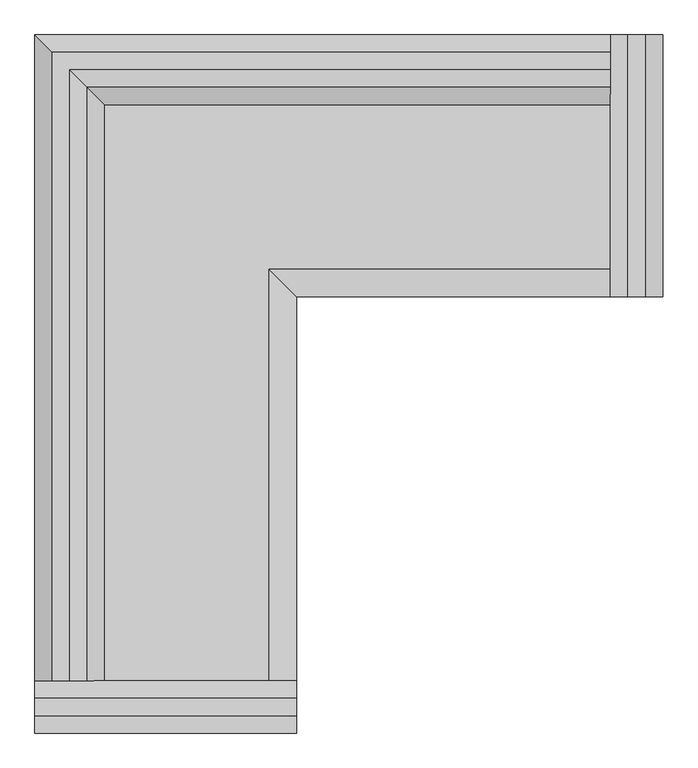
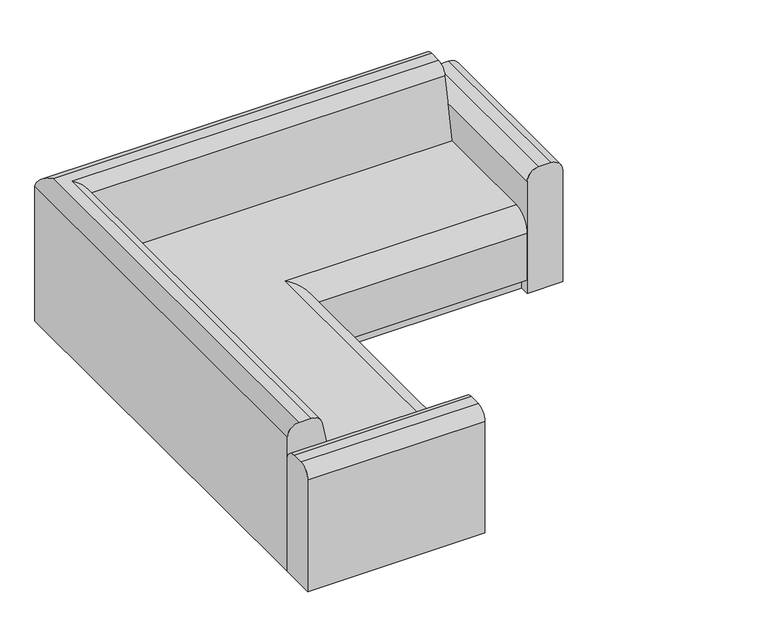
"""IFC4 building model written with IfcOpenShell, lengths in millimetres: furniture geometry, L 型长沙发 : W1800*D1800."""

import ifcopenshell
import ifcopenshell.guid

model = None  # the IFC model being written
_history = None  # IfcOwnerHistory: only IFC2X3 demands one
_inside = {}  # id of a spatial element -> (the spatial element, [elements in it])
_under = {}  # id of a project, library or spatial element -> (it, [spatial elements below it])
_declared = {}  # id of a project -> (the project, [libraries it declares])
_typed = {}  # id of a type object -> (the type object, [elements of that type])
_made_of = {}  # id of a material, layer set ... -> (it, [elements and type objects made of it])


def new_model(schema):
    """Start an empty IFC model of exactly this schema.

    Asked for "IFC4X3", IfcOpenShell would pick the latest addendum, in which some entities
    have other attributes; the version numbers below select the first issue.
    IFC2X3 requires an IfcOwnerHistory on every rooted entity: one is made here for all.
    """
    global model, _history
    if schema == "IFC4X3":
        model = ifcopenshell.file(schema_version=(4, 3, 0, 0))
    else:
        model = ifcopenshell.file(schema=schema)
    _inside.clear()
    _under.clear()
    _declared.clear()
    _typed.clear()
    _made_of.clear()
    _history = None
    if model.schema == "IFC2X3":
        org = make("IfcOrganization", Name="unknown")
        user = make(
            "IfcPersonAndOrganization",
            ThePerson=make("IfcPerson", FamilyName="unknown"),
            TheOrganization=org,
        )
        app = make(
            "IfcApplication",
            ApplicationDeveloper=org,
            Version="unknown",
            ApplicationFullName="unknown",
            ApplicationIdentifier="unknown",
        )
        _history = make(
            "IfcOwnerHistory",
            OwningUser=user,
            OwningApplication=app,
            ChangeAction="ADDED",
            CreationDate=0,
        )
    return model


def make(cls, **values):
    """One entity of the class cls with the attributes given. An attribute that is None is left unset."""
    return model.create_entity(
        cls, **{name: value for name, value in values.items() if value is not None}
    )


def rooted(cls, **values):
    """An entity with a GlobalId (a new one), such as an element, a storey or a relation."""
    return make(cls, GlobalId=ifcopenshell.guid.new(), OwnerHistory=_history, **values)


def si_unit(unit_type, name, prefix=None):
    """IfcSIUnit, for example si_unit("LENGTHUNIT", "METRE", prefix="MILLI")."""
    return make("IfcSIUnit", UnitType=unit_type, Prefix=prefix, Name=name)


def assignment(units):
    """IfcUnitAssignment: the units of a project."""
    return None if units is None else make("IfcUnitAssignment", Units=units)


def point(xyz):
    """IfcCartesianPoint."""
    return None if xyz is None else make("IfcCartesianPoint", Coordinates=xyz)


def direction(xyz):
    """IfcDirection."""
    return None if xyz is None else make("IfcDirection", DirectionRatios=xyz)


def frame(location, z_axis=None, x_axis=None):
    """IfcAxis2Placement3D, a coordinate frame: its origin and axes. An axis left out is left unset."""
    return make(
        "IfcAxis2Placement3D",
        Location=point(location),
        Axis=direction(z_axis),
        RefDirection=direction(x_axis),
    )


def frame_2d(location, x_axis=None):
    """IfcAxis2Placement2D, a coordinate frame in the plane: its origin and x axis."""
    return make(
        "IfcAxis2Placement2D", Location=point(location), RefDirection=direction(x_axis)
    )


def origin():
    """The frame at (0, 0, 0) with its axes left unset."""
    return frame((0.0, 0.0, 0.0))


def place(relative_to, where):
    """IfcLocalPlacement: puts the frame where relative to a parent placement (None: the world)."""
    return make(
        "IfcLocalPlacement", PlacementRelTo=relative_to, RelativePlacement=where
    )


def context(
    kind, dimensions, precision=None, world=None, true_north=None, identifier=None
):
    """IfcGeometricRepresentationContext, for example the 3D "Model" context."""
    return make(
        "IfcGeometricRepresentationContext",
        ContextIdentifier=identifier,
        ContextType=kind,
        CoordinateSpaceDimension=dimensions,
        Precision=precision,
        WorldCoordinateSystem=world,
        TrueNorth=true_north,
    )


def project(units=None, contexts=None):
    """IfcProject with its units and contexts."""
    return rooted(
        "IfcProject",
        Name="project",
        RepresentationContexts=contexts,
        UnitsInContext=assignment(units),
    )


def spatial(cls, under=None, at=None, **own):
    """A site, building, storey or space (cls), placed at a placement, below another one or the project."""
    s = rooted(cls, ObjectPlacement=at, **own)
    if under is not None:
        _under.setdefault(under.id(), (under, []))[1].append(s)
    return s


def polyline(points):
    """IfcPolyline through the points."""
    return make("IfcPolyline", Points=[point(p) for p in points])


def circle_curve(where, radius):
    """IfcCircle in the frame where."""
    return make("IfcCircle", Position=where, Radius=radius)


def ellipse_curve(where, semi_axis1, semi_axis2):
    """IfcEllipse in the frame where."""
    return make(
        "IfcEllipse", Position=where, SemiAxis1=semi_axis1, SemiAxis2=semi_axis2
    )


def trimmed(basis, trim1, trim2, sense, master):
    """IfcTrimmedCurve: the piece of a basis curve between two trims."""
    return make(
        "IfcTrimmedCurve",
        BasisCurve=basis,
        Trim1=trim1,
        Trim2=trim2,
        SenseAgreement=sense,
        MasterRepresentation=master,
    )


def segment(curve, same_sense, transition):
    """IfcCompositeCurveSegment."""
    return make(
        "IfcCompositeCurveSegment",
        Transition=transition,
        SameSense=same_sense,
        ParentCurve=curve,
    )


def composite_curve(segments, self_intersect=None):
    """IfcCompositeCurve: segments joined end to end."""
    return make("IfcCompositeCurve", Segments=segments, SelfIntersect=self_intersect)


def outline(outer, holes=None, kind="AREA"):
    """IfcArbitraryClosedProfileDef: a profile drawn as a closed curve; with holes, ...WithVoids."""
    if holes is None:
        return make("IfcArbitraryClosedProfileDef", ProfileType=kind, OuterCurve=outer)
    return make(
        "IfcArbitraryProfileDefWithVoids",
        ProfileType=kind,
        OuterCurve=outer,
        InnerCurves=holes,
    )


def extrude(swept, where, along, depth):
    """IfcExtrudedAreaSolid: the profile swept, set in the frame where, extruded along a direction by depth."""
    return make(
        "IfcExtrudedAreaSolid",
        SweptArea=swept,
        Position=where,
        ExtrudedDirection=direction(along),
        Depth=depth,
    )


def shape(context_of_items, identifier, shape_type, items):
    """IfcShapeRepresentation: the items that make up one representation, for example the "Body"."""
    return make(
        "IfcShapeRepresentation",
        ContextOfItems=context_of_items,
        RepresentationIdentifier=identifier,
        RepresentationType=shape_type,
        Items=items,
    )


def source(mapping_origin, context_of_items, identifier, shape_type, items):
    """IfcRepresentationMap: a shape defined once, which mapped items show again and again."""
    return make(
        "IfcRepresentationMap",
        MappingOrigin=mapping_origin,
        MappedRepresentation=shape(context_of_items, identifier, shape_type, items),
    )


def transform(
    local_origin,
    x_axis=None,
    y_axis=None,
    z_axis=None,
    scale=None,
    scale2=None,
    scale3=None,
    uniform=True,
):
    """IfcCartesianTransformationOperator3D, or its non-uniform kind. x_axis, y_axis, z_axis: its Axis1, 2, 3."""
    if uniform:
        return make(
            "IfcCartesianTransformationOperator3D",
            Axis1=direction(x_axis),
            Axis2=direction(y_axis),
            LocalOrigin=point(local_origin),
            Scale=scale,
            Axis3=direction(z_axis),
        )
    return make(
        "IfcCartesianTransformationOperator3DnonUniform",
        Axis1=direction(x_axis),
        Axis2=direction(y_axis),
        LocalOrigin=point(local_origin),
        Scale=scale,
        Axis3=direction(z_axis),
        Scale2=scale2,
        Scale3=scale3,
    )


def mapped(mapping_source, mapping_target):
    """IfcMappedItem: shows the shape of a source again, moved by a transform."""
    return make(
        "IfcMappedItem", MappingSource=mapping_source, MappingTarget=mapping_target
    )


def made_of(thing, what):
    """Note that an element or type object is made of a material, layer set ...; save() writes the relation."""
    if what is not None:
        _made_of.setdefault(what.id(), (what, []))[1].append(thing)
    return thing


def element(
    cls,
    number,
    at=None,
    inside=None,
    cuts=None,
    type_object=None,
    material=None,
    context=None,
    identifier="Body",
    shape_type=None,
    held_by="IfcProductDefinitionShape",
    body=None,
    shapes=None,
    **own,
):
    """One element of the class cls, such as IfcWall. Its Tag is "e" and its number.

    at: its placement. inside: the storey or other place that contains it. cuts: it is an
    opening in that element (IfcRelVoidsElement). A single representation is given by context,
    identifier, shape_type and body (its items); several are given by shapes. held_by: the class
    of the entity that holds the representations. save() writes the other relations.
    """
    e = rooted(cls, Tag="e%d" % number, ObjectPlacement=at, **own)
    if body is not None:
        shapes = [shape(context, identifier, shape_type, body)]
    if shapes is not None:
        e.Representation = make(held_by, Representations=shapes)
    if inside is not None:
        _inside.setdefault(inside.id(), (inside, []))[1].append(e)
    if cuts is not None:
        rooted(
            "IfcRelVoidsElement", RelatingBuildingElement=cuts, RelatedOpeningElement=e
        )
    if type_object is not None:
        _typed.setdefault(type_object.id(), (type_object, []))[1].append(e)
    return made_of(e, material)


def aggregate(whole, parts):
    """IfcRelAggregates: a whole, such as a stair, and the parts it consists of."""
    return rooted("IfcRelAggregates", RelatingObject=whole, RelatedObjects=parts)


def save(model, path):
    """Write the relations noted so far, then the file.

    IfcRelAggregates (storeys below a building ...), IfcRelContainedInSpatialStructure (elements
    in a storey), IfcRelDefinesByType, IfcRelAssociatesMaterial and IfcRelDeclares: one each for
    every whole, place, type object, material and project.
    """
    for whole, parts in _under.values():
        aggregate(whole, parts)
    for where, things in _inside.values():
        rooted(
            "IfcRelContainedInSpatialStructure",
            RelatedElements=things,
            RelatingStructure=where,
        )
    for kind, things in _typed.values():
        rooted("IfcRelDefinesByType", RelatedObjects=things, RelatingType=kind)
    for what, things in _made_of.values():
        rooted("IfcRelAssociatesMaterial", RelatedObjects=things, RelatingMaterial=what)
    for by, libraries in _declared.values():
        rooted("IfcRelDeclares", RelatingContext=by, RelatedDefinitions=libraries)
    model.write(path)


def plane_surface(at):
    """IfcPlane: the flat surface through the origin of the frame at, square to its z axis."""
    return make("IfcPlane", Position=at)


def cylinder_surface(at, radius):
    """IfcCylindricalSurface: all points at the distance radius from the z axis of the frame at."""
    return make("IfcCylindricalSurface", Position=at, Radius=radius)


def advanced_brep(points, edges, surfaces, faces):
    """IfcAdvancedBrep: a solid bounded by faces that lie on surfaces and meet in shared edges.

    An edge is (start, end): straight between two places in points (the first is 0);
    or (start, end, curve); or (start, end, curve, False) where it runs against its curve.
    A face is (place in surfaces, loops), or (place, loops, False) where it looks against
    its surface's normal. A loop lists edges by number (the first is 1), with a minus sign
    where the edge is run from its end to its start. The first loop is the outer one.
    """
    corners = [point(p) for p in points]
    vertices = [make("IfcVertexPoint", VertexGeometry=c) for c in corners]
    made = []
    for start, end, *more in edges:
        made.append(
            make(
                "IfcEdgeCurve",
                EdgeStart=vertices[start],
                EdgeEnd=vertices[end],
                EdgeGeometry=more[0] if more else make("IfcPolyline", Points=[corners[start], corners[end]]),
                SameSense=more[1] if len(more) > 1 else True,
            )
        )
    hull = []
    for where, loops, *sense in faces:
        bounds = []
        for j, loop in enumerate(loops):
            ring = [make("IfcOrientedEdge", EdgeElement=made[abs(k) - 1], Orientation=k > 0) for k in loop]
            bounds.append(
                make(
                    "IfcFaceOuterBound" if j == 0 else "IfcFaceBound",
                    Bound=make("IfcEdgeLoop", EdgeList=ring),
                    Orientation=True,
                )
            )
        hull.append(make("IfcAdvancedFace", Bounds=bounds, FaceSurface=surfaces[where], SameSense=sense[0] if sense else True))
    return make("IfcAdvancedBrep", Outer=make("IfcClosedShell", CfsFaces=hull))


def furniture_ee37edb5(model_context):
    return source(origin(), model_context, "Body", "SolidModel", [
        extrude(outline(composite_curve([segment(trimmed(circle_curve(frame_2d((-900.0, 500.0)), 50.0), [point((-900.0, 550.0))], [point((-850.0, 500.0))], False, "CARTESIAN"), True, "CONTINUOUS"), segment(polyline([(-850.0, 500.0), (-850.0, 0.0), (-1000.0, 0.0), (-1000.0, 500.0)]), True, "CONTINUOUS"), segment(trimmed(circle_curve(frame_2d((-950.0, 500.0)), 50.0), [point((-1000.0, 500.0))], [point((-950.0, 550.0))], False, "CARTESIAN"), True, "CONTINUOUS"), segment(polyline([(-950.0, 550.0), (-900.0, 550.0)]), True, "CONTINUOUS")], self_intersect=False)), frame((-900.0, 0.0, 0.0), z_axis=(1.0, 0.0, 0.0), x_axis=(0.0, 1.0, 0.0)), (0.0, 0.0, 1.0), 750.0),
        extrude(outline(composite_curve([segment(polyline([(550.0, 850.0), (550.0, 800.0)]), True, "CONTINUOUS"), segment(trimmed(circle_curve(frame_2d((500.0, 800.0)), 50.0), [point((550.0, 800.0))], [point((500.0, 750.0))], False, "CARTESIAN"), True, "CONTINUOUS"), segment(polyline([(500.0, 750.0), (0.0, 750.0), (0.0, 900.0), (500.0, 900.0)]), True, "CONTINUOUS"), segment(trimmed(circle_curve(frame_2d((500.0, 850.0)), 50.0), [point((500.0, 900.0))], [point((550.0, 850.0))], False, "CARTESIAN"), True, "CONTINUOUS")], self_intersect=False)), frame((0.0, 250.0, 0.0), z_axis=(0.0, 1.0, 0.0), x_axis=(0.0, 0.0, 1.0)), (0.0, 0.0, 1.0), 750.0),
        advanced_brep(
        [(750.0, 950.0, 650.0), (750.0, 900.9901951, 650.0), (750.0, 851.9611614, 609.8058068), (750.0, 800.0, 350.0), (750.0, 330.0, 350.0), (750.0, 250.0, 270.0), (750.0, 250.0, 60.0), (750.0, 290.0, 60.0), (750.0, 290.0, 0.0), (750.0, 1000.0, 0.0), (750.0, 1000.0, 600.0), (-850.0, 950.0, 650.0), (-850.0, -850.0, 650.0), (-800.9901951, -850.0, 650.0), (-800.9901951, 900.9901951, 650.0), (-751.9611614, 851.9611614, 609.8058068), (-700.0, 800.0, 350.0), (-700.0, -850.0, 350.0), (-230.0, -850.0, 350.0), (-230.0, 330.0, 350.0), (-150.0, 250.0, 270.0), (-150.0, 250.0, 60.0), (-150.0, -850.0, 60.0), (-190.0, -850.0, 60.0), (-190.0, 290.0, 60.0), (-190.0, 290.0, 0.0), (-190.0, -850.0, 0.0), (-900.0, -850.0, 0.0), (-900.0, 1000.0, 0.0), (-900.0, 1000.0, 600.0), (-900.0, -850.0, 600.0), (-150.0, -850.0, 270.0), (-751.9611614, -850.0, 609.8058068)],
        [
            (0, 1),
            (1, 2, circle_curve(frame((750.0, 900.9901951, 600.0), z_axis=(1.0, 0.0, 0.0), x_axis=(0.0, -1.0, 0.0)), 50.0)),
            (2, 3),
            (3, 4),
            (4, 5, circle_curve(frame((750.0, 330.0, 270.0), z_axis=(1.0, 0.0, 0.0), x_axis=(0.0, -1.0, 0.0)), 80.0)),
            (5, 6),
            (6, 7),
            (7, 8),
            (8, 9),
            (9, 10),
            (10, 0, circle_curve(frame((750.0, 950.0, 600.0), z_axis=(1.0, 0.0, 0.0), x_axis=(0.0, -1.0, 0.0)), 50.0)),
            (0, 11),
            (11, 12),
            (12, 13),
            (13, 14),
            (14, 1),
            (14, 15, ellipse_curve(frame((-800.9901951, 900.9901951, 600.0), z_axis=(0.7071067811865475, 0.7071067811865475, 0.0), x_axis=(0.7071067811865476, -0.7071067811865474, 0.0)), 70.7106781, 50.0)),
            (15, 2),
            (15, 16),
            (16, 3),
            (16, 17),
            (17, 18),
            (18, 19),
            (19, 4),
            (19, 20, ellipse_curve(frame((-230.0, 330.0, 270.0), z_axis=(0.7071067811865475, 0.7071067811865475, 0.0), x_axis=(0.7071067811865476, -0.7071067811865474, 0.0)), 113.137085, 80.0)),
            (20, 5),
            (20, 21),
            (21, 6),
            (21, 22),
            (22, 23),
            (23, 24),
            (24, 7),
            (24, 25),
            (25, 8),
            (25, 26),
            (26, 27),
            (27, 28),
            (28, 9),
            (28, 29),
            (29, 10),
            (29, 11, ellipse_curve(frame((-850.0, 950.0, 600.0), z_axis=(0.7071067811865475, 0.7071067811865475, 0.0), x_axis=(0.7071067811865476, -0.7071067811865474, 0.0)), 70.7106781, 50.0)),
            (12, 30, circle_curve(frame((-850.0, -850.0, 600.0), z_axis=(0.0, -1.0, 0.0), x_axis=(1.0, 0.0, 0.0)), 50.0)),
            (30, 27),
            (26, 23),
            (22, 31),
            (31, 18, circle_curve(frame((-230.0, -850.0, 270.0), z_axis=(0.0, -1.0, 0.0), x_axis=(1.0, 0.0, 0.0)), 80.0)),
            (17, 32),
            (32, 13, circle_curve(frame((-800.9901951, -850.0, 600.0), z_axis=(0.0, -1.0, 0.0), x_axis=(1.0, 0.0, 0.0)), 50.0)),
            (32, 15),
            (31, 20),
            (30, 29),
        ],
        [
            plane_surface(frame((750.0, 1000.0, -802.3539183), z_axis=(1.0, 0.0, 0.0), x_axis=(0.0, -1.0, 0.0))),
            plane_surface(frame((750.0, 950.0, 650.0), z_axis=(0.0, 0.0, 1.0), x_axis=(-1.0, 0.0, 0.0))),
            cylinder_surface(frame((750.0, 900.9901951, 600.0), z_axis=(1.0, 0.0, 0.0), x_axis=(0.0, -1.0, 0.0)), 50.0),
            plane_surface(frame((750.0, 851.9611614, 609.8058068), z_axis=(0.0, -0.9805806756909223, 0.19611613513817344), x_axis=(-1.0, 0.0, 0.0))),
            plane_surface(frame((750.0, 800.0, 350.0), z_axis=(0.0, 0.0, 1.0), x_axis=(-1.0, 0.0, 0.0))),
            cylinder_surface(frame((750.0, 330.0, 270.0), z_axis=(1.0, 0.0, 0.0), x_axis=(0.0, -1.0, 0.0)), 80.0),
            plane_surface(frame((750.0, 250.0, 270.0), z_axis=(0.0, -1.0, 0.0), x_axis=(-1.0, 0.0, 0.0))),
            plane_surface(frame((750.0, 250.0, 60.0), z_axis=(0.0, 0.0, -1.0), x_axis=(-1.0, 0.0, 0.0))),
            plane_surface(frame((750.0, 290.0, 60.0), z_axis=(0.0, -1.0, 0.0), x_axis=(-1.0, 0.0, 0.0))),
            plane_surface(frame((750.0, 290.0, 0.0), z_axis=(0.0, 0.0, -1.0), x_axis=(-1.0, 0.0, 0.0))),
            plane_surface(frame((750.0, 1000.0, 0.0), z_axis=(0.0, 1.0, 0.0), x_axis=(-1.0, 0.0, 0.0))),
            cylinder_surface(frame((750.0, 950.0, 600.0), z_axis=(1.0, 0.0, 0.0), x_axis=(0.0, -1.0, 0.0)), 50.0),
            plane_surface(frame((-1702.3539183, -850.0, 0.0), z_axis=(0.0, -1.0, 0.0), x_axis=(0.0, 0.0, -1.0))),
            cylinder_surface(frame((-800.9901951, 1000.0, 600.0), z_axis=(0.0, 1.0, 0.0), x_axis=(1.0, 0.0, 0.0)), 50.0),
            plane_surface(frame((-751.9611614, 851.9611614, 609.8058068), z_axis=(0.9805806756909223, 0.0, 0.19611613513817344), x_axis=(0.0, -1.0, 0.0))),
            cylinder_surface(frame((-230.0, 1000.0, 270.0), z_axis=(0.0, 1.0, 0.0), x_axis=(1.0, 0.0, 0.0)), 80.0),
            plane_surface(frame((-150.0, 250.0, 270.0), z_axis=(1.0, 0.0, 0.0), x_axis=(0.0, -1.0, 0.0))),
            plane_surface(frame((-190.0, 290.0, 60.0), z_axis=(1.0, 0.0, 0.0), x_axis=(0.0, -1.0, 0.0))),
            plane_surface(frame((-900.0, 1000.0, 0.0), z_axis=(-1.0, 0.0, 0.0), x_axis=(0.0, -1.0, 0.0))),
            cylinder_surface(frame((-850.0, 1000.0, 600.0), z_axis=(0.0, 1.0, 0.0), x_axis=(1.0, 0.0, 0.0)), 50.0),
        ],
        [
            (0, [[1, 2, 3, 4, 5, 6, 7, 8, 9, 10, 11]]),
            (1, [[-1, 12, 13, 14, 15, 16]]),
            (2, [[-2, -16, 17, 18]]),
            (3, [[-3, -18, 19, 20]]),
            (4, [[-4, -20, 21, 22, 23, 24]]),
            (5, [[-5, -24, 25, 26]]),
            (6, [[-6, -26, 27, 28]]),
            (7, [[-7, -28, 29, 30, 31, 32]]),
            (8, [[-8, -32, 33, 34]]),
            (9, [[-9, -34, 35, 36, 37, 38]]),
            (10, [[-10, -38, 39, 40]]),
            (11, [[-11, -40, 41, -12]]),
            (12, [[42, 43, -36, 44, -30, 45, 46, -22, 47, 48, -14]]),
            (13, [[-17, -15, -48, 49]]),
            (14, [[-19, -49, -47, -21]]),
            (15, [[-25, -23, -46, 50]]),
            (16, [[-27, -50, -45, -29]]),
            (17, [[-33, -31, -44, -35]]),
            (18, [[-39, -37, -43, 51]]),
            (19, [[-41, -51, -42, -13]]),
        ],
    ),
    ])


if __name__ == "__main__":
    model = new_model("IFC4")
    model_context = context("Model", 3, world=origin())
    ifc_project = project(units=[si_unit("LENGTHUNIT", "METRE", prefix="MILLI")], contexts=[model_context])
    site = spatial("IfcSite", under=ifc_project)
    building = spatial("IfcBuilding", under=site)
    placement = place(None, origin())
    furniture_shape = furniture_ee37edb5(model_context)
    element("IfcFurniture", 1, ObjectType="L 型长沙发 : W1800*D1800", at=placement, inside=building, context=model_context, shape_type="MappedRepresentation", body=[
        mapped(furniture_shape, transform((0.0, 0.0, 0.0), x_axis=(1.0, 0.0, 0.0), y_axis=(0.0, 1.0, 0.0), z_axis=(0.0, 0.0, 1.0))),
    ])
    save(model, "model.ifc")
